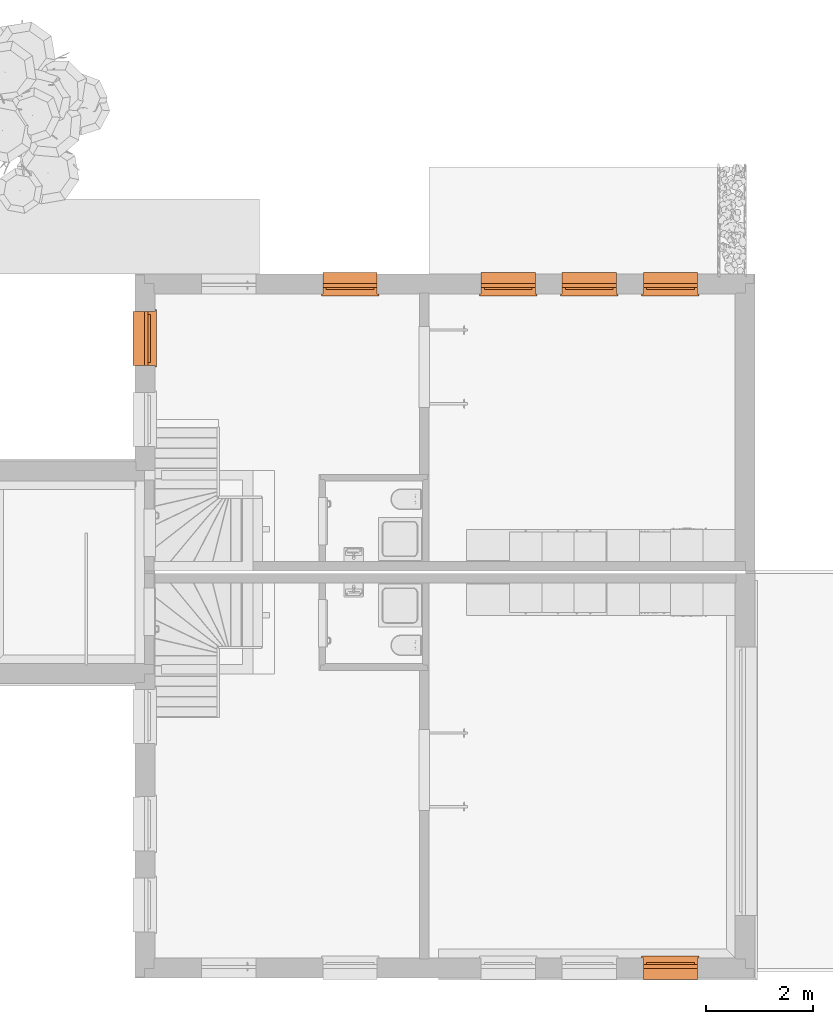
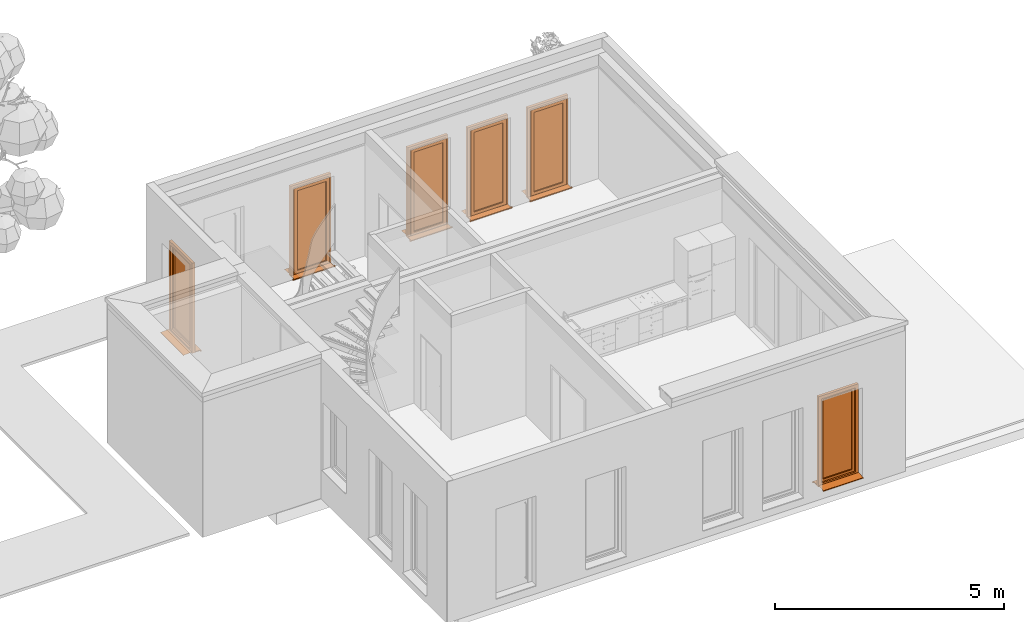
# One storey, part 15 of 28: 6 proxies.
"""IFC4 building model written with IfcOpenShell, lengths in metres."""

from ifc_helpers import new_model, entity, si_unit, converted_unit, derived_unit, direction, frame, origin_with_axes, place, context, subcontext, project, spatial, triangles, source, transform, mapped, type_object, element, save


model = new_model("IFC4")

# Units and contexts
model_context = context("Model", 3, precision=1e-05, world=origin_with_axes(), true_north=direction((-0.526213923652, 0.850352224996)))
body_context = subcontext(model_context, "Body", "Model", "MODEL_VIEW")
ifc_project = project(units=[si_unit("LENGTHUNIT", "METRE"), si_unit("AREAUNIT", "SQUARE_METRE"), si_unit("VOLUMEUNIT", "CUBIC_METRE"), converted_unit("PLANEANGLEUNIT", "DEGREE", entity("IfcPlaneAngleMeasure", 0.0174532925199), si_unit("PLANEANGLEUNIT", "RADIAN"), dimensions=[0, 0, 0, 0, 0, 0, 0]), si_unit("SOLIDANGLEUNIT", "STERADIAN"), converted_unit("TIMEUNIT", "Year", entity("IfcTimeMeasure", 31556926.0), si_unit("TIMEUNIT", "SECOND"), dimensions=[0, 0, 1, 0, 0, 0, 0]), si_unit("MASSUNIT", "GRAM", prefix="KILO"), si_unit("THERMODYNAMICTEMPERATUREUNIT", "DEGREE_CELSIUS"), si_unit("LUMINOUSINTENSITYUNIT", "LUMEN"), si_unit("ENERGYUNIT", "JOULE", prefix="MEGA"), derived_unit("THERMALCONDUCTANCEUNIT", [(si_unit("POWERUNIT", "WATT"), 1), (si_unit("LENGTHUNIT", "METRE"), -1), (si_unit("THERMODYNAMICTEMPERATUREUNIT", "KELVIN"), -1)]), derived_unit("SPECIFICHEATCAPACITYUNIT", [(si_unit("ENERGYUNIT", "JOULE"), 1), (si_unit("MASSUNIT", "GRAM", prefix="KILO"), -1), (si_unit("THERMODYNAMICTEMPERATUREUNIT", "KELVIN"), -1)]), derived_unit("MASSDENSITYUNIT", [(si_unit("MASSUNIT", "GRAM", prefix="KILO"), 1), (si_unit("VOLUMEUNIT", "CUBIC_METRE"), -1)])], contexts=[model_context])

# Site, building, storey
site_placement = place(None, origin_with_axes())
site = spatial("IfcSite", under=ifc_project, at=site_placement, Name="Gelände", CompositionType="ELEMENT")
building_placement = place(site_placement, origin_with_axes())
building = spatial("IfcBuilding", under=site, at=building_placement, Name="Haus vom Nikolaus", CompositionType="ELEMENT")
storey_placement = place(building_placement, origin_with_axes())
storey = spatial("IfcBuildingStorey", under=building, at=storey_placement, Name="EG", CompositionType="ELEMENT", Elevation=0.0)

# Proxies
building_element_proxy_type = type_object("IfcBuildingElementProxyType", Name="1-Flügelfenster 22", PredefinedType="NOTDEFINED")
shared_shape_1 = source(origin_with_axes(), body_context, "Body", "Tessellation", [
    triangles([(0.505, -0.071, 0.04), (-0.505, -0.071, 0.05), (-0.505, -0.071, 0.04), (0.505, -0.071, 0.05), (0.505, -0.28, 0.0283333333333), (-0.505, -0.28, 0.0283333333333), (0.505, -0.28, 0.00833333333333), (-0.505, -0.28, 0.00833333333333), (0.505, -0.27, 0.0183333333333), (-0.505, -0.27, 0.0183333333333)], [[1, 2, 3], [1, 4, 2], [5, 3, 6], [5, 1, 3], [7, 6, 8], [7, 5, 6], [9, 8, 10], [9, 7, 8]], closed=False),
    triangles([(0.505, 0.125, 0.025), (0.505, 0.0, 0.0), (0.505, 0.125, 0.0), (0.505, 0.0, 0.025), (0.535, 0.155, 0.0), (-0.505, 0.125, 0.0), (-0.535, 0.155, 0.0), (-0.505, 0.0, 0.0), (-0.535, 0.125, 0.0), (0.535, 0.125, 0.0), (0.535, 0.125, 0.025), (0.535, 0.155, 0.025), (-0.505, 0.125, 0.025), (-0.535, 0.155, 0.025), (-0.505, 0.0, 0.025), (-0.535, 0.125, 0.025)], [[1, 2, 3], [1, 4, 2], [5, 6, 7], [6, 2, 8], [7, 6, 9], [10, 3, 5], [3, 2, 6], [5, 3, 6], [11, 3, 10], [11, 1, 3], [11, 12, 1], [13, 1, 14], [14, 1, 12], [13, 15, 4], [13, 14, 16], [1, 13, 4], [4, 8, 2], [4, 15, 8], [15, 6, 8], [15, 13, 6], [13, 9, 6], [13, 16, 9], [16, 7, 9], [16, 14, 7], [14, 5, 7], [14, 12, 5], [11, 5, 12], [5, 11, 10]], closed=True),
    triangles([(-0.425, 0.0, 0.08), (-0.505, -0.07, 0.0), (-0.505, 0.0, 0.0), (-0.425, -0.07, 0.08), (-0.505, -0.07, 2.4), (-0.505, 0.0, 2.4), (-0.425, 0.0, 2.32), (-0.425, -0.07, 2.32)], [[1, 2, 3], [1, 4, 2], [3, 5, 6], [3, 2, 5], [1, 6, 7], [6, 1, 3], [7, 4, 1], [7, 8, 4], [5, 2, 8], [8, 2, 4], [6, 8, 7], [6, 5, 8]], closed=True),
    triangles([(0.505, 0.0, 2.4), (0.505, -0.07, 0.0), (0.505, 0.0, 0.0), (0.505, -0.07, 2.4), (0.425, 0.0, 0.08), (0.425, -0.07, 0.08), (0.425, 0.0, 2.32), (0.425, -0.07, 2.32)], [[1, 2, 3], [1, 4, 2], [2, 5, 3], [5, 2, 6], [1, 3, 7], [7, 3, 5], [7, 4, 1], [7, 8, 4], [6, 4, 8], [4, 6, 2], [5, 8, 7], [5, 6, 8]], closed=True),
    triangles([(0.505, 0.0, 0.0), (-0.505, -0.07, 0.0), (-0.505, 0.0, 0.0), (0.505, -0.07, 0.0), (-0.425, -0.07, 0.08), (-0.425, 0.0, 0.08), (0.0, 0.0, 0.08), (0.425, 0.0, 0.08), (0.425, -0.07, 0.08), (0.0, -0.07, 0.08)], [[1, 2, 3], [1, 4, 2], [3, 5, 6], [3, 2, 5], [1, 3, 7], [7, 3, 6], [1, 7, 8], [8, 4, 1], [8, 9, 4], [10, 4, 9], [5, 2, 10], [4, 10, 2], [6, 10, 7], [6, 5, 10], [7, 9, 8], [7, 10, 9]], closed=True),
    triangles([(-0.425, -0.07, 2.32), (-0.505, 0.0, 2.4), (-0.425, 0.0, 2.32), (-0.505, -0.07, 2.4), (0.505, -0.07, 2.4), (0.505, 0.0, 2.4), (0.0, 0.0, 2.32), (0.425, 0.0, 2.32), (0.0, -0.07, 2.32), (0.425, -0.07, 2.32)], [[1, 2, 3], [2, 1, 4], [2, 5, 6], [2, 4, 5], [7, 6, 8], [3, 2, 7], [6, 7, 2], [7, 1, 3], [7, 9, 1], [5, 4, 9], [9, 4, 1], [5, 9, 10], [6, 10, 8], [6, 5, 10], [8, 9, 7], [8, 10, 9]], closed=True),
    triangles([(-0.365, 0.04, 0.14), (-0.445, 0.0, 0.06), (-0.445, 0.04, 0.06), (-0.365, 0.0, 0.14), (-0.445, 0.0, 2.34), (-0.445, 0.04, 2.34), (-0.365, 0.04, 2.26), (-0.365, 0.0, 2.26)], [[1, 2, 3], [1, 4, 2], [3, 5, 6], [3, 2, 5], [7, 3, 6], [7, 1, 3], [7, 4, 1], [7, 8, 4], [5, 2, 8], [8, 2, 4], [6, 8, 7], [6, 5, 8]], closed=True),
    triangles([(0.365, 0.04, 0.14), (0.445, 0.0, 0.06), (0.365, 0.0, 0.14), (0.445, 0.04, 0.06), (0.365, 0.0, 2.26), (0.445, 0.0, 2.34), (0.365, 0.04, 2.26), (0.445, 0.04, 2.34)], [[1, 2, 3], [1, 4, 2], [5, 2, 6], [5, 3, 2], [7, 3, 5], [7, 1, 3], [8, 4, 7], [7, 4, 1], [4, 6, 2], [4, 8, 6], [8, 5, 6], [8, 7, 5]], closed=True),
    triangles([(0.445, 0.04, 0.06), (-0.445, 0.0, 0.06), (-0.445, 0.04, 0.06), (0.445, 0.0, 0.06), (-0.365, 0.0, 0.14), (-0.365, 0.04, 0.14), (0.365, 0.04, 0.14), (0.365, 0.0, 0.14)], [[1, 2, 3], [1, 4, 2], [3, 5, 6], [3, 2, 5], [1, 3, 7], [7, 3, 6], [7, 4, 1], [7, 8, 4], [5, 4, 8], [4, 5, 2], [6, 8, 7], [6, 5, 8]], closed=True),
    triangles([(0.445, 0.04, 2.34), (-0.445, 0.0, 2.34), (0.445, 0.0, 2.34), (-0.445, 0.04, 2.34), (0.365, 0.0, 2.26), (-0.365, 0.0, 2.26), (0.365, 0.04, 2.26), (-0.365, 0.04, 2.26)], [[1, 2, 3], [1, 4, 2], [3, 2, 5], [5, 2, 6], [7, 3, 5], [7, 1, 3], [7, 4, 1], [7, 8, 4], [8, 2, 4], [2, 8, 6], [8, 5, 6], [8, 7, 5]], closed=True),
    triangles([(-0.365, 0.0, 0.14), (-0.425, -0.03, 0.08), (-0.425, 0.0, 0.08), (-0.365, -0.03, 0.14), (-0.425, -0.03, 2.32), (-0.425, 0.0, 2.32), (-0.365, 0.0, 2.26), (-0.365, -0.03, 2.26)], [[1, 2, 3], [1, 4, 2], [3, 5, 6], [3, 2, 5], [7, 3, 6], [7, 1, 3], [7, 4, 1], [7, 8, 4], [4, 5, 2], [5, 4, 8], [6, 8, 7], [6, 5, 8]], closed=True),
    triangles([(0.365, 0.0, 0.14), (0.425, -0.03, 0.08), (0.365, -0.03, 0.14), (0.425, 0.0, 0.08), (0.365, -0.03, 2.26), (0.425, -0.03, 2.32), (0.365, 0.0, 2.26), (0.425, 0.0, 2.32)], [[1, 2, 3], [1, 4, 2], [5, 2, 6], [5, 3, 2], [7, 3, 5], [7, 1, 3], [1, 8, 4], [8, 1, 7], [4, 6, 2], [4, 8, 6], [8, 5, 6], [8, 7, 5]], closed=True),
    triangles([(0.425, 0.0, 0.08), (-0.425, -0.03, 0.08), (-0.425, 0.0, 0.08), (0.425, -0.03, 0.08), (-0.365, -0.03, 0.14), (-0.365, 0.0, 0.14), (0.365, 0.0, 0.14), (0.365, -0.03, 0.14)], [[1, 2, 3], [1, 4, 2], [3, 5, 6], [3, 2, 5], [6, 1, 3], [1, 6, 7], [7, 4, 1], [7, 8, 4], [5, 4, 8], [4, 5, 2], [6, 8, 7], [6, 5, 8]], closed=True),
    triangles([(0.425, 0.0, 2.32), (-0.425, -0.03, 2.32), (0.425, -0.03, 2.32), (-0.425, 0.0, 2.32), (0.365, -0.03, 2.26), (-0.365, -0.03, 2.26), (0.365, 0.0, 2.26), (-0.365, 0.0, 2.26)], [[1, 2, 3], [1, 4, 2], [3, 2, 5], [5, 2, 6], [7, 3, 5], [7, 1, 3], [7, 4, 1], [7, 8, 4], [4, 6, 2], [4, 8, 6], [8, 5, 6], [8, 7, 5]], closed=True),
    triangles([(0.365, 0.01, 0.14), (-0.365, 0.0, 0.14), (-0.365, 0.01, 0.14), (0.365, 0.0, 0.14), (-0.365, 0.0, 2.26), (-0.365, 0.01, 2.26), (0.365, 0.01, 2.26), (0.365, 0.0, 2.26)], [[1, 2, 3], [1, 4, 2], [3, 5, 6], [3, 2, 5], [7, 3, 6], [7, 1, 3], [7, 4, 1], [7, 8, 4], [8, 2, 4], [8, 5, 2], [6, 8, 7], [6, 5, 8]], closed=True),
])
proxy_placement = place(storey_placement, frame((9.35499761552, 0.259832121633, 0.2), z_axis=(0.0, 0.0, 1.0), x_axis=(1.0, 0.0, 0.0)))
element("IfcBuildingElementProxy", 1, at=proxy_placement, inside=storey, type_object=building_element_proxy_type, Name="Fenster-014", PredefinedType="NOTDEFINED", context=body_context, shape_type="MappedRepresentation", body=[
    mapped(shared_shape_1, transform((0.505, -0.125, 0.0))),
])
shared_shape_2 = source(origin_with_axes(), body_context, "Body", "Tessellation", [
    triangles([(-0.505, -0.071, 0.04), (0.505, -0.071, 0.05), (-0.505, -0.071, 0.05), (0.505, -0.071, 0.04), (-0.505, -0.28, 0.0283333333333), (0.505, -0.28, 0.0283333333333), (-0.505, -0.28, 0.00833333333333), (0.505, -0.28, 0.00833333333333), (-0.505, -0.27, 0.0183333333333), (0.505, -0.27, 0.0183333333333)], [[1, 2, 3], [1, 4, 2], [5, 4, 1], [5, 6, 4], [7, 6, 5], [7, 8, 6], [9, 8, 7], [9, 10, 8]], closed=False),
    triangles([(-0.505, 0.125, 0.0), (-0.505, 0.0, 0.025), (-0.505, 0.125, 0.025), (-0.505, 0.0, 0.0), (0.505, 0.0, 0.0), (0.505, 0.0, 0.025), (-0.535, 0.155, 0.025), (0.505, 0.125, 0.025), (0.535, 0.155, 0.025), (0.535, 0.125, 0.025), (-0.535, 0.125, 0.025), (-0.535, 0.125, 0.0), (-0.535, 0.155, 0.0), (0.505, 0.125, 0.0), (0.535, 0.155, 0.0), (0.535, 0.125, 0.0)], [[1, 2, 3], [2, 1, 4], [2, 5, 6], [2, 4, 5], [7, 8, 9], [8, 2, 6], [9, 8, 10], [11, 3, 7], [3, 2, 8], [7, 3, 8], [11, 1, 3], [11, 12, 1], [12, 13, 1], [14, 1, 15], [15, 1, 13], [14, 5, 4], [14, 15, 16], [1, 14, 4], [6, 14, 8], [6, 5, 14], [8, 16, 10], [8, 14, 16], [10, 15, 9], [10, 16, 15], [9, 13, 7], [9, 15, 13], [13, 11, 7], [11, 13, 12]], closed=True),
    triangles([(0.425, 0.0, 0.08), (0.505, -0.07, 0.0), (0.425, -0.07, 0.08), (0.505, 0.0, 0.0), (0.505, -0.07, 2.4), (0.425, -0.07, 2.32), (0.425, 0.0, 2.32), (0.505, 0.0, 2.4)], [[1, 2, 3], [1, 4, 2], [3, 5, 6], [5, 3, 2], [7, 3, 6], [7, 1, 3], [8, 4, 7], [7, 4, 1], [4, 5, 2], [4, 8, 5], [8, 6, 5], [8, 7, 6]], closed=True),
    triangles([(-0.505, 0.0, 2.4), (-0.505, -0.07, 0.0), (-0.505, -0.07, 2.4), (-0.505, 0.0, 0.0), (-0.425, -0.07, 2.32), (-0.425, -0.07, 0.08), (-0.425, 0.0, 2.32), (-0.425, 0.0, 0.08)], [[1, 2, 3], [1, 4, 2], [3, 2, 5], [5, 2, 6], [7, 3, 5], [7, 1, 3], [7, 4, 1], [7, 8, 4], [4, 6, 2], [4, 8, 6], [8, 5, 6], [8, 7, 5]], closed=True),
    triangles([(-0.505, 0.0, 0.0), (0.505, -0.07, 0.0), (-0.505, -0.07, 0.0), (0.505, 0.0, 0.0), (0.0, -0.07, 0.08), (0.425, -0.07, 0.08), (-0.425, -0.07, 0.08), (-0.425, 0.0, 0.08), (0.0, 0.0, 0.08), (0.425, 0.0, 0.08)], [[1, 2, 3], [1, 4, 2], [3, 2, 5], [5, 2, 6], [3, 5, 7], [8, 3, 7], [8, 1, 3], [9, 1, 8], [10, 4, 9], [1, 9, 4], [4, 6, 2], [4, 10, 6], [10, 5, 6], [10, 9, 5], [9, 7, 5], [9, 8, 7]], closed=True),
    triangles([(0.425, 0.0, 2.32), (0.505, -0.07, 2.4), (0.425, -0.07, 2.32), (0.505, 0.0, 2.4), (0.0, -0.07, 2.32), (-0.505, -0.07, 2.4), (-0.425, -0.07, 2.32), (0.0, 0.0, 2.32), (-0.505, 0.0, 2.4), (-0.425, 0.0, 2.32)], [[1, 2, 3], [1, 4, 2], [5, 6, 7], [3, 2, 5], [6, 5, 2], [8, 3, 5], [8, 1, 3], [9, 4, 8], [8, 4, 1], [9, 8, 10], [4, 6, 2], [4, 9, 6], [9, 7, 6], [9, 10, 7], [10, 5, 7], [10, 8, 5]], closed=True),
    triangles([(0.445, 0.04, 0.06), (0.365, 0.0, 0.14), (0.365, 0.04, 0.14), (0.445, 0.0, 0.06), (0.365, 0.0, 2.26), (0.445, 0.0, 2.34), (0.365, 0.04, 2.26), (0.445, 0.04, 2.34)], [[1, 2, 3], [2, 1, 4], [5, 4, 6], [5, 2, 4], [7, 2, 5], [7, 3, 2], [8, 1, 7], [7, 1, 3], [1, 6, 4], [1, 8, 6], [8, 5, 6], [8, 7, 5]], closed=True),
    triangles([(-0.365, 0.04, 0.14), (-0.445, 0.0, 0.06), (-0.445, 0.04, 0.06), (-0.365, 0.0, 0.14), (-0.445, 0.0, 2.34), (-0.445, 0.04, 2.34), (-0.365, 0.04, 2.26), (-0.365, 0.0, 2.26)], [[1, 2, 3], [1, 4, 2], [3, 5, 6], [3, 2, 5], [7, 3, 6], [7, 1, 3], [7, 4, 1], [7, 8, 4], [5, 2, 8], [8, 2, 4], [6, 8, 7], [6, 5, 8]], closed=True),
    triangles([(-0.445, 0.04, 0.06), (0.445, 0.0, 0.06), (-0.445, 0.0, 0.06), (0.445, 0.04, 0.06), (-0.365, 0.0, 0.14), (0.365, 0.0, 0.14), (-0.365, 0.04, 0.14), (0.365, 0.04, 0.14)], [[1, 2, 3], [1, 4, 2], [3, 2, 5], [5, 2, 6], [7, 3, 5], [7, 1, 3], [7, 4, 1], [7, 8, 4], [4, 6, 2], [4, 8, 6], [8, 5, 6], [8, 7, 5]], closed=True),
    triangles([(-0.445, 0.04, 2.34), (0.445, 0.0, 2.34), (0.445, 0.04, 2.34), (-0.445, 0.0, 2.34), (0.365, 0.0, 2.26), (0.365, 0.04, 2.26), (-0.365, 0.04, 2.26), (-0.365, 0.0, 2.26)], [[1, 2, 3], [1, 4, 2], [3, 5, 6], [3, 2, 5], [6, 1, 3], [1, 6, 7], [7, 4, 1], [7, 8, 4], [8, 2, 4], [8, 5, 2], [6, 8, 7], [6, 5, 8]], closed=True),
    triangles([(0.365, 0.0, 0.14), (0.425, -0.03, 0.08), (0.365, -0.03, 0.14), (0.425, 0.0, 0.08), (0.365, -0.03, 2.26), (0.425, -0.03, 2.32), (0.365, 0.0, 2.26), (0.425, 0.0, 2.32)], [[1, 2, 3], [1, 4, 2], [5, 2, 6], [5, 3, 2], [7, 3, 5], [7, 1, 3], [1, 8, 4], [8, 1, 7], [4, 6, 2], [4, 8, 6], [8, 5, 6], [8, 7, 5]], closed=True),
    triangles([(-0.365, 0.0, 0.14), (-0.425, -0.03, 0.08), (-0.425, 0.0, 0.08), (-0.365, -0.03, 0.14), (-0.425, -0.03, 2.32), (-0.425, 0.0, 2.32), (-0.365, 0.0, 2.26), (-0.365, -0.03, 2.26)], [[1, 2, 3], [1, 4, 2], [3, 5, 6], [3, 2, 5], [7, 3, 6], [7, 1, 3], [7, 4, 1], [7, 8, 4], [4, 5, 2], [5, 4, 8], [6, 8, 7], [6, 5, 8]], closed=True),
    triangles([(-0.425, 0.0, 0.08), (0.425, -0.03, 0.08), (-0.425, -0.03, 0.08), (0.425, 0.0, 0.08), (-0.365, -0.03, 0.14), (0.365, -0.03, 0.14), (-0.365, 0.0, 0.14), (0.365, 0.0, 0.14)], [[1, 2, 3], [1, 4, 2], [3, 2, 5], [5, 2, 6], [7, 3, 5], [7, 1, 3], [7, 4, 1], [7, 8, 4], [4, 6, 2], [4, 8, 6], [8, 5, 6], [8, 7, 5]], closed=True),
    triangles([(-0.425, 0.0, 2.32), (0.425, -0.03, 2.32), (0.425, 0.0, 2.32), (-0.425, -0.03, 2.32), (0.365, -0.03, 2.26), (0.365, 0.0, 2.26), (-0.365, 0.0, 2.26), (-0.365, -0.03, 2.26)], [[1, 2, 3], [1, 4, 2], [3, 5, 6], [3, 2, 5], [1, 3, 7], [7, 3, 6], [7, 4, 1], [7, 8, 4], [8, 2, 4], [8, 5, 2], [6, 8, 7], [6, 5, 8]], closed=True),
    triangles([(-0.365, 0.01, 0.14), (0.365, 0.0, 0.14), (-0.365, 0.0, 0.14), (0.365, 0.01, 0.14), (-0.365, 0.0, 2.26), (0.365, 0.0, 2.26), (-0.365, 0.01, 2.26), (0.365, 0.01, 2.26)], [[1, 2, 3], [1, 4, 2], [5, 2, 6], [5, 3, 2], [7, 3, 5], [7, 1, 3], [7, 4, 1], [7, 8, 4], [4, 6, 2], [4, 8, 6], [8, 5, 6], [8, 7, 5]], closed=True),
])
for number, where, z_axis, x_axis, name in (
    (2, (0.259997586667, 12.2998320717, 0.2), (0.0, 0.0, 1.0), (0.0, -1.0, 0.0), "Fenster-005"),
    (3, (4.39999761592, 12.6198320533, 0.2), (0.0, 0.0, 1.0), (-1.0, 0.0, 0.0), "Fenster-015"),
):
    element("IfcBuildingElementProxy", number, at=place(storey_placement, frame(where, z_axis=z_axis, x_axis=x_axis)), inside=storey, type_object=building_element_proxy_type, Name=name, PredefinedType="NOTDEFINED", context=body_context, shape_type="MappedRepresentation", body=[
        mapped(shared_shape_2, transform((0.505, -0.125, 0.0))),
    ])
shared_shape_3 = source(origin_with_axes(), body_context, "Body", "Tessellation", [
    triangles([(0.505, -0.071, 0.04), (-0.505, -0.071, 0.05), (-0.505, -0.071, 0.04), (0.505, -0.071, 0.05), (0.505, -0.28, 0.0283333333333), (-0.505, -0.28, 0.0283333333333), (0.505, -0.28, 0.00833333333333), (-0.505, -0.28, 0.00833333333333), (0.505, -0.27, 0.0183333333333), (-0.505, -0.27, 0.0183333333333)], [[1, 2, 3], [1, 4, 2], [5, 3, 6], [5, 1, 3], [7, 6, 8], [7, 5, 6], [9, 8, 10], [9, 7, 8]], closed=False),
    triangles([(0.505, 0.125, 0.025), (0.505, 0.0, 0.0), (0.505, 0.125, 0.0), (0.505, 0.0, 0.025), (0.535, 0.155, 0.0), (-0.505, 0.125, 0.0), (-0.535, 0.155, 0.0), (-0.505, 0.0, 0.0), (-0.535, 0.125, 0.0), (0.535, 0.125, 0.0), (0.535, 0.125, 0.025), (0.535, 0.155, 0.025), (-0.505, 0.125, 0.025), (-0.535, 0.155, 0.025), (-0.505, 0.0, 0.025), (-0.535, 0.125, 0.025)], [[1, 2, 3], [1, 4, 2], [5, 6, 7], [6, 2, 8], [7, 6, 9], [10, 3, 5], [3, 2, 6], [5, 3, 6], [11, 3, 10], [11, 1, 3], [11, 12, 1], [13, 1, 14], [14, 1, 12], [13, 15, 4], [13, 14, 16], [1, 13, 4], [4, 8, 2], [4, 15, 8], [15, 6, 8], [15, 13, 6], [13, 9, 6], [13, 16, 9], [16, 7, 9], [16, 14, 7], [14, 5, 7], [14, 12, 5], [11, 5, 12], [5, 11, 10]], closed=True),
    triangles([(-0.425, 0.0, 0.08), (-0.505, -0.07, 0.0), (-0.505, 0.0, 0.0), (-0.425, -0.07, 0.08), (-0.505, -0.07, 2.4), (-0.505, 0.0, 2.4), (-0.425, 0.0, 2.32), (-0.425, -0.07, 2.32)], [[1, 2, 3], [1, 4, 2], [3, 5, 6], [3, 2, 5], [7, 3, 6], [7, 1, 3], [7, 4, 1], [7, 8, 4], [5, 2, 8], [8, 2, 4], [5, 7, 6], [7, 5, 8]], closed=True),
    triangles([(0.505, 0.0, 2.4), (0.505, -0.07, 0.0), (0.505, 0.0, 0.0), (0.505, -0.07, 2.4), (0.425, -0.07, 0.08), (0.425, 0.0, 0.08), (0.425, 0.0, 2.32), (0.425, -0.07, 2.32)], [[1, 2, 3], [1, 4, 2], [3, 5, 6], [3, 2, 5], [1, 3, 7], [7, 3, 6], [7, 4, 1], [7, 8, 4], [8, 2, 4], [8, 5, 2], [6, 8, 7], [6, 5, 8]], closed=True),
    triangles([(0.505, 0.0, 0.0), (-0.505, -0.07, 0.0), (-0.505, 0.0, 0.0), (0.505, -0.07, 0.0), (-0.425, -0.07, 0.08), (-0.425, 0.0, 0.08), (0.0, 0.0, 0.08), (0.425, 0.0, 0.08), (0.425, -0.07, 0.08), (0.0, -0.07, 0.08)], [[1, 2, 3], [1, 4, 2], [3, 5, 6], [3, 2, 5], [1, 3, 7], [7, 3, 6], [1, 7, 8], [9, 1, 8], [1, 9, 4], [10, 4, 9], [5, 2, 10], [4, 10, 2], [6, 10, 7], [6, 5, 10], [7, 9, 8], [7, 10, 9]], closed=True),
    triangles([(-0.425, 0.0, 2.32), (-0.505, -0.07, 2.4), (-0.505, 0.0, 2.4), (-0.425, -0.07, 2.32), (0.505, -0.07, 2.4), (0.505, 0.0, 2.4), (0.0, 0.0, 2.32), (0.425, 0.0, 2.32), (0.0, -0.07, 2.32), (0.425, -0.07, 2.32)], [[1, 2, 3], [1, 4, 2], [3, 5, 6], [3, 2, 5], [7, 6, 8], [1, 3, 7], [6, 7, 3], [7, 4, 1], [7, 9, 4], [5, 2, 9], [9, 2, 4], [5, 9, 10], [6, 10, 8], [6, 5, 10], [8, 9, 7], [8, 10, 9]], closed=True),
    triangles([(-0.365, 0.04, 0.14), (-0.445, 0.0, 0.06), (-0.445, 0.04, 0.06), (-0.365, 0.0, 0.14), (-0.445, 0.0, 2.34), (-0.445, 0.04, 2.34), (-0.365, 0.04, 2.26), (-0.365, 0.0, 2.26)], [[1, 2, 3], [1, 4, 2], [3, 5, 6], [3, 2, 5], [7, 3, 6], [7, 1, 3], [7, 4, 1], [7, 8, 4], [5, 2, 8], [8, 2, 4], [6, 8, 7], [6, 5, 8]], closed=True),
    triangles([(0.365, 0.04, 0.14), (0.445, 0.0, 0.06), (0.365, 0.0, 0.14), (0.445, 0.04, 0.06), (0.365, 0.0, 2.26), (0.445, 0.0, 2.34), (0.365, 0.04, 2.26), (0.445, 0.04, 2.34)], [[1, 2, 3], [1, 4, 2], [5, 2, 6], [5, 3, 2], [7, 3, 5], [7, 1, 3], [8, 4, 7], [7, 4, 1], [4, 6, 2], [4, 8, 6], [8, 5, 6], [8, 7, 5]], closed=True),
    triangles([(0.445, 0.04, 0.06), (-0.445, 0.0, 0.06), (-0.445, 0.04, 0.06), (0.445, 0.0, 0.06), (-0.365, 0.0, 0.14), (-0.365, 0.04, 0.14), (0.365, 0.04, 0.14), (0.365, 0.0, 0.14)], [[1, 2, 3], [1, 4, 2], [3, 5, 6], [3, 2, 5], [1, 3, 7], [7, 3, 6], [7, 4, 1], [7, 8, 4], [8, 2, 4], [8, 5, 2], [6, 8, 7], [6, 5, 8]], closed=True),
    triangles([(0.445, 0.04, 2.34), (-0.445, 0.0, 2.34), (0.445, 0.0, 2.34), (-0.445, 0.04, 2.34), (-0.365, 0.0, 2.26), (0.365, 0.0, 2.26), (0.365, 0.04, 2.26), (-0.365, 0.04, 2.26)], [[1, 2, 3], [1, 4, 2], [5, 3, 2], [3, 5, 6], [7, 3, 6], [7, 1, 3], [7, 4, 1], [7, 8, 4], [4, 5, 2], [4, 8, 5], [8, 6, 5], [8, 7, 6]], closed=True),
    triangles([(-0.365, 0.0, 0.14), (-0.425, -0.03, 0.08), (-0.425, 0.0, 0.08), (-0.365, -0.03, 0.14), (-0.425, -0.03, 2.32), (-0.425, 0.0, 2.32), (-0.365, 0.0, 2.26), (-0.365, -0.03, 2.26)], [[1, 2, 3], [1, 4, 2], [3, 5, 6], [3, 2, 5], [7, 3, 6], [7, 1, 3], [7, 4, 1], [7, 8, 4], [4, 5, 2], [5, 4, 8], [6, 8, 7], [6, 5, 8]], closed=True),
    triangles([(0.365, 0.0, 0.14), (0.425, -0.03, 0.08), (0.365, -0.03, 0.14), (0.425, 0.0, 0.08), (0.365, -0.03, 2.26), (0.425, -0.03, 2.32), (0.365, 0.0, 2.26), (0.425, 0.0, 2.32)], [[1, 2, 3], [1, 4, 2], [5, 2, 6], [5, 3, 2], [7, 3, 5], [7, 1, 3], [1, 8, 4], [8, 1, 7], [4, 6, 2], [4, 8, 6], [8, 5, 6], [8, 7, 5]], closed=True),
    triangles([(0.425, 0.0, 0.08), (-0.425, -0.03, 0.08), (-0.425, 0.0, 0.08), (0.425, -0.03, 0.08), (-0.365, -0.03, 0.14), (-0.365, 0.0, 0.14), (0.365, 0.0, 0.14), (0.365, -0.03, 0.14)], [[1, 2, 3], [1, 4, 2], [3, 5, 6], [3, 2, 5], [1, 3, 7], [7, 3, 6], [7, 4, 1], [7, 8, 4], [8, 2, 4], [8, 5, 2], [6, 8, 7], [6, 5, 8]], closed=True),
    triangles([(0.425, 0.0, 2.32), (-0.425, -0.03, 2.32), (0.425, -0.03, 2.32), (-0.425, 0.0, 2.32), (0.365, -0.03, 2.26), (-0.365, -0.03, 2.26), (0.365, 0.0, 2.26), (-0.365, 0.0, 2.26)], [[1, 2, 3], [1, 4, 2], [3, 2, 5], [5, 2, 6], [7, 3, 5], [7, 1, 3], [7, 4, 1], [7, 8, 4], [4, 6, 2], [4, 8, 6], [8, 5, 6], [8, 7, 5]], closed=True),
    triangles([(0.365, 0.01, 0.14), (-0.365, 0.0, 0.14), (-0.365, 0.01, 0.14), (0.365, 0.0, 0.14), (-0.365, 0.0, 2.26), (-0.365, 0.01, 2.26), (0.365, 0.01, 2.26), (0.365, 0.0, 2.26)], [[1, 2, 3], [1, 4, 2], [3, 5, 6], [3, 2, 5], [7, 3, 6], [7, 1, 3], [7, 4, 1], [7, 8, 4], [8, 2, 4], [8, 5, 2], [6, 8, 7], [6, 5, 8]], closed=True),
])
for number, where, z_axis, x_axis, name in (
    (4, (7.34499761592, 12.6198320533, 0.2), (0.0, 0.0, 1.0), (-1.0, 0.0, 0.0), "Fenster-002"),
    (5, (8.85499761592, 12.6198320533, 0.2), (0.0, 0.0, 1.0), (-1.0, 0.0, 0.0), "Fenster-003"),
    (6, (10.3649976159, 12.6198320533, 0.2), (0.0, 0.0, 1.0), (-1.0, 0.0, 0.0), "Fenster-004"),
):
    element("IfcBuildingElementProxy", number, at=place(storey_placement, frame(where, z_axis=z_axis, x_axis=x_axis)), inside=storey, type_object=building_element_proxy_type, Name=name, PredefinedType="NOTDEFINED", context=body_context, shape_type="MappedRepresentation", body=[
        mapped(shared_shape_3, transform((0.505, -0.125, 0.0))),
    ])

save(model, "model.ifc")
